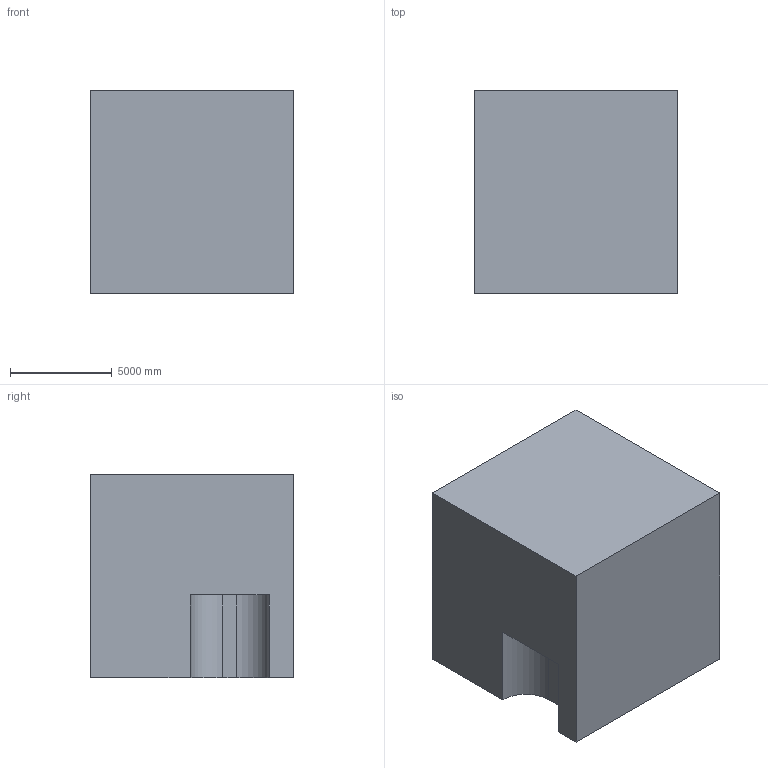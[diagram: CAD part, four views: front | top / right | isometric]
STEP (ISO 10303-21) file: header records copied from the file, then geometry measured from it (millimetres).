
FILE_DESCRIPTION (( 'STEP AP203' ), '1' );
FILE_NAME ('123.STEP', '2022-09-05T15:36:59', ( 'user' ), ( '' ), 'SwSTEP 2.0', 'SolidWorks 2021', '' );
FILE_SCHEMA (( 'CONFIG_CONTROL_DESIGN' ));
Length unit declared in the file: centimetre
Products named in the file (1): 123
Bounding box: 10000 x 10000 x 10000 mm (x, y, z)
Volume: 973984757222.7 mm3; surface area: 619697673.9 mm2
Topology: 1 solids, 1 shells, 18 faces, 48 edges, 32 vertices
Faces by surface type: plane 16, cylinder 2
Entity records: 633 total; most frequent: CARTESIAN_POINT 99, ORIENTED_EDGE 96, DIRECTION 90, EDGE_CURVE 48, VECTOR 44, LINE 44, VERTEX_POINT 32, AXIS2_PLACEMENT_3D 23
